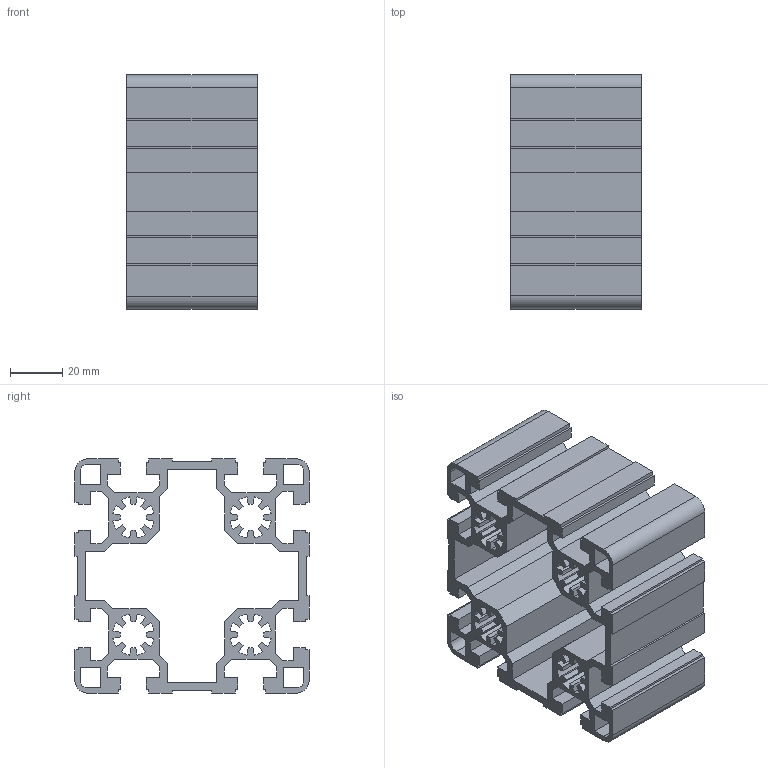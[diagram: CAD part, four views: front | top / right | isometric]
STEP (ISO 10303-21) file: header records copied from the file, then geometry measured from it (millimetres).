
FILE_DESCRIPTION(('no description'),'unknown implementation level');
FILE_NAME('3842992415_134417291.stp',' ',('Bosch Rexroth AG'),('CADClick - KiM GmbH - www.kimweb.de'),'unknown preprocess','ACIS','unknown authorization');
FILE_SCHEMA(('automotive_design'));
Length unit declared in the file: millimetre
Products named in the file (1): 1
Bounding box: 50 x 90 x 90 mm (x, y, z)
Volume: 115628.9 mm3; surface area: 78995.1 mm2
Topology: 1 solids, 1 shells, 318 faces, 948 edges, 632 vertices
Faces by surface type: plane 246, cylinder 72
Entity records: 21100 total; most frequent: STYLED_ITEM 1899, PRESENTATION_STYLE_ASSIGNMENT 1899, CARTESIAN_POINT 1899, COLOUR_RGB 1899, ORIENTED_EDGE 1896, DIRECTION 1730, EDGE_CURVE 948, CURVE_STYLE 948
